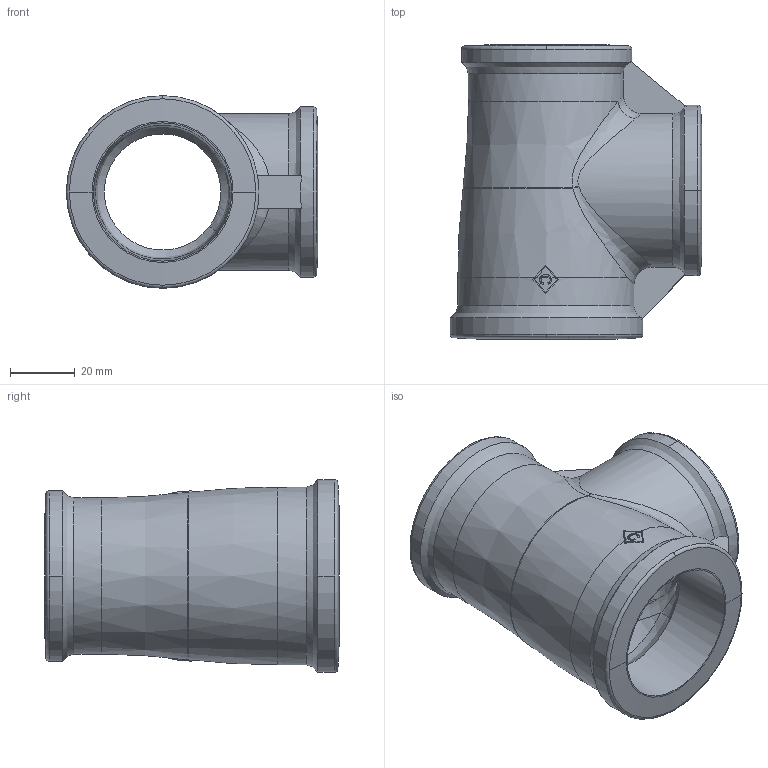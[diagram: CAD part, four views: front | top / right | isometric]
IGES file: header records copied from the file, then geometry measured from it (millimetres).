
Global section: file name: No Iges File Name specified; native system: AutoDesk Inventor R12.0; preprocessor: AutoDesk Inventor Iges Exporter R12.0; date: 20090916.124801; units: millimetre
Bounding box: 77.8 x 91 x 59.6 mm (x, y, z)
Volume: 88163 mm3; surface area: 35849.9 mm2
Topology: 1 solids, 1 shells, 95 faces, 285 edges, 191 vertices
Faces by surface type: bspline 40, plane 19, cylinder 14, revolution 9, cone 7, torus 6
